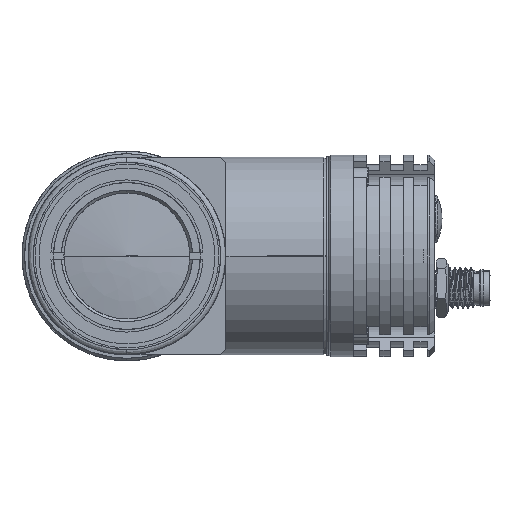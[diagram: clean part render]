
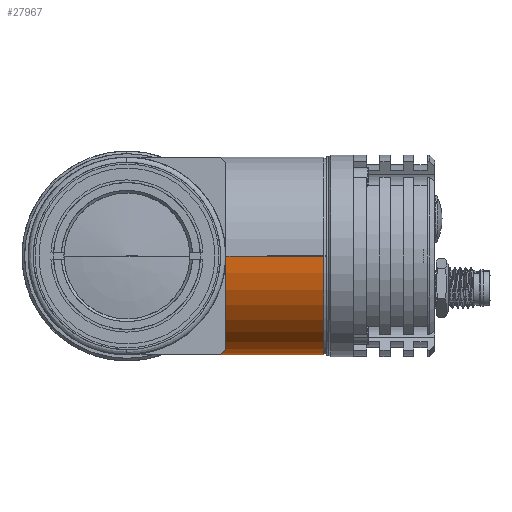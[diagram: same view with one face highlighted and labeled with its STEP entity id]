
A CAD part, left-side view. The second image highlights one B-rep face of the part: STEP entity #27967.
In plain terms, the highlighted face is a revolution surface.
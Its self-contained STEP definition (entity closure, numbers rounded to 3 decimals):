
#27967 = ADVANCED_FACE('',(#27968),#27982,.T.);
#27968 = FACE_BOUND('',#27969,.T.);
#27969 = EDGE_LOOP('',(#27970,#27995,#28011,#28026));
#27970 = ORIENTED_EDGE('',*,*,#27971,.F.);
#27971 = EDGE_CURVE('',#27972,#27974,#27976,.T.);
#27972 = VERTEX_POINT('',#27973);
#27973 = CARTESIAN_POINT('',(218.3,-17.35,0.));
#27974 = VERTEX_POINT('',#27975);
#27975 = CARTESIAN_POINT('',(218.3,-37.522,0.));
#27976 = SURFACE_CURVE('',#27977,(#27981),.PCURVE_S1.);
#27977 = LINE('',#27978,#27979);
#27978 = CARTESIAN_POINT('',(218.3,-17.35,0.));
#27979 = VECTOR('',#27980,1.);
#27980 = DIRECTION('',(0.,-1.,0.));
#27981 = PCURVE('',#27982,#27990);
#27982 = SURFACE_OF_REVOLUTION('',#27983,#27987);
#27983 = LINE('',#27984,#27985);
#27984 = CARTESIAN_POINT('',(218.3,-37.522,0.));
#27985 = VECTOR('',#27986,1.);
#27986 = DIRECTION('',(0.,1.,0.));
#27987 = AXIS1_PLACEMENT('',#27988,#27989);
#27988 = CARTESIAN_POINT('',(199.45,-38.022,0.));
#27989 = DIRECTION('',(0.,-1.,0.));
#27990 = DEFINITIONAL_REPRESENTATION('',(#27991),#27994);
#27991 = B_SPLINE_CURVE_WITH_KNOTS('',1,(#27992,#27993),.UNSPECIFIED.,
  .F.,.F.,(2,2),(0.,20.172),.PIECEWISE_BEZIER_KNOTS.);
#27992 = CARTESIAN_POINT('',(6.283,20.172));
#27993 = CARTESIAN_POINT('',(6.283,0.));
#27994 = ( GEOMETRIC_REPRESENTATION_CONTEXT(2) 
PARAMETRIC_REPRESENTATION_CONTEXT() REPRESENTATION_CONTEXT('',''
  ) );
#27995 = ORIENTED_EDGE('',*,*,#27996,.F.);
#27996 = EDGE_CURVE('',#27997,#27972,#27999,.T.);
#27997 = VERTEX_POINT('',#27998);
#27998 = CARTESIAN_POINT('',(180.6,-17.35,0.));
#27999 = SURFACE_CURVE('',#28000,(#28005),.PCURVE_S1.);
#28000 = CIRCLE('',#28001,18.85);
#28001 = AXIS2_PLACEMENT_3D('',#28002,#28003,#28004);
#28002 = CARTESIAN_POINT('',(199.45,-17.35,0.));
#28003 = DIRECTION('',(0.,-1.,0.));
#28004 = DIRECTION('',(-1.,0.,0.));
#28005 = PCURVE('',#27982,#28006);
#28006 = DEFINITIONAL_REPRESENTATION('',(#28007),#28010);
#28007 = B_SPLINE_CURVE_WITH_KNOTS('',1,(#28008,#28009),.UNSPECIFIED.,
  .F.,.F.,(2,2),(0.,3.142),.PIECEWISE_BEZIER_KNOTS.);
#28008 = CARTESIAN_POINT('',(3.142,20.172));
#28009 = CARTESIAN_POINT('',(6.283,20.172));
#28010 = ( GEOMETRIC_REPRESENTATION_CONTEXT(2) 
PARAMETRIC_REPRESENTATION_CONTEXT() REPRESENTATION_CONTEXT('',''
  ) );
#28011 = ORIENTED_EDGE('',*,*,#28012,.F.);
#28012 = EDGE_CURVE('',#28013,#27997,#28015,.T.);
#28013 = VERTEX_POINT('',#28014);
#28014 = CARTESIAN_POINT('',(180.6,-37.522,0.));
#28015 = SURFACE_CURVE('',#28016,(#28020),.PCURVE_S1.);
#28016 = LINE('',#28017,#28018);
#28017 = CARTESIAN_POINT('',(180.6,-37.522,0.));
#28018 = VECTOR('',#28019,1.);
#28019 = DIRECTION('',(0.,1.,0.));
#28020 = PCURVE('',#27982,#28021);
#28021 = DEFINITIONAL_REPRESENTATION('',(#28022),#28025);
#28022 = B_SPLINE_CURVE_WITH_KNOTS('',1,(#28023,#28024),.UNSPECIFIED.,
  .F.,.F.,(2,2),(0.,20.172),.PIECEWISE_BEZIER_KNOTS.);
#28023 = CARTESIAN_POINT('',(3.142,0.));
#28024 = CARTESIAN_POINT('',(3.142,20.172));
#28025 = ( GEOMETRIC_REPRESENTATION_CONTEXT(2) 
PARAMETRIC_REPRESENTATION_CONTEXT() REPRESENTATION_CONTEXT('',''
  ) );
#28026 = ORIENTED_EDGE('',*,*,#28027,.F.);
#28027 = EDGE_CURVE('',#27974,#28013,#28028,.T.);
#28028 = SURFACE_CURVE('',#28029,(#28034),.PCURVE_S1.);
#28029 = CIRCLE('',#28030,18.85);
#28030 = AXIS2_PLACEMENT_3D('',#28031,#28032,#28033);
#28031 = CARTESIAN_POINT('',(199.45,-37.522,0.));
#28032 = DIRECTION('',(0.,1.,0.));
#28033 = DIRECTION('',(1.,0.,0.));
#28034 = PCURVE('',#27982,#28035);
#28035 = DEFINITIONAL_REPRESENTATION('',(#28036),#28039);
#28036 = B_SPLINE_CURVE_WITH_KNOTS('',1,(#28037,#28038),.UNSPECIFIED.,
  .F.,.F.,(2,2),(0.,3.142),
  .PIECEWISE_BEZIER_KNOTS.);
#28037 = CARTESIAN_POINT('',(6.283,0.));
#28038 = CARTESIAN_POINT('',(3.142,0.));
#28039 = ( GEOMETRIC_REPRESENTATION_CONTEXT(2) 
PARAMETRIC_REPRESENTATION_CONTEXT() REPRESENTATION_CONTEXT('',''
  ) );
